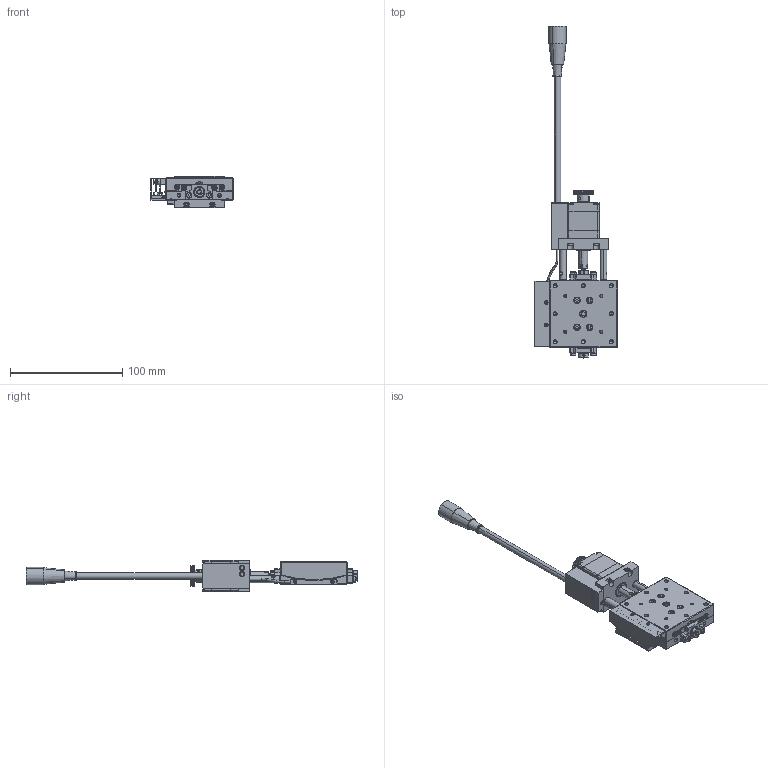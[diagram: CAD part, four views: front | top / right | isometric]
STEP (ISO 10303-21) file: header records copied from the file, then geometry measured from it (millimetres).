
FILE_DESCRIPTION (( 'STEP AP214' ), '1' );
FILE_NAME ('PHTM-60A85R(A).STEP', '2019-01-18T09:47:42', ( '微软用户' ), ( '微软中国' ), 'SwSTEP 2.0', 'SolidWorks 2015', '' );
FILE_SCHEMA (( 'AUTOMOTIVE_DESIGN' ));
Length unit declared in the file: millimetre
Products named in the file (2): PHTM-60A85R(A)
Bounding box: 73 x 295.5 x 28 mm (x, y, z)
Volume: 116923.7 mm3; surface area: 68145.1 mm2
Topology: 60 solids, 60 shells, 3140 faces, 7944 edges, 5019 vertices
Faces by surface type: plane 1717, cylinder 695, cone 667, bspline 59, torus 2
Entity records: 152393 total; most frequent: CARTESIAN_POINT 44020, ORIENTED_EDGE 15664, DIRECTION 14213, EDGE_CURVE 7832, AXIS2_PLACEMENT_3D 5033, VERTEX_POINT 5019, VECTOR 4147, LINE 4147
